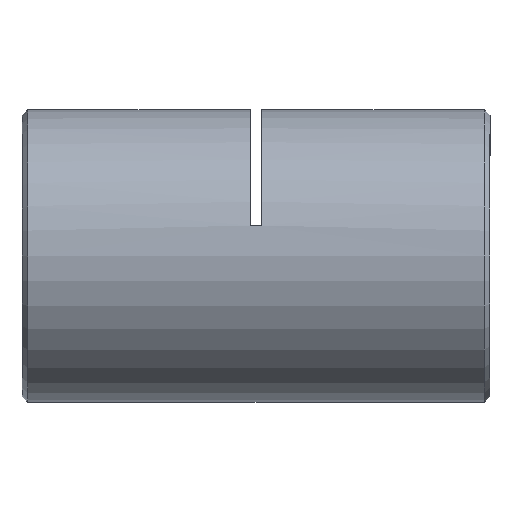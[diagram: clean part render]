
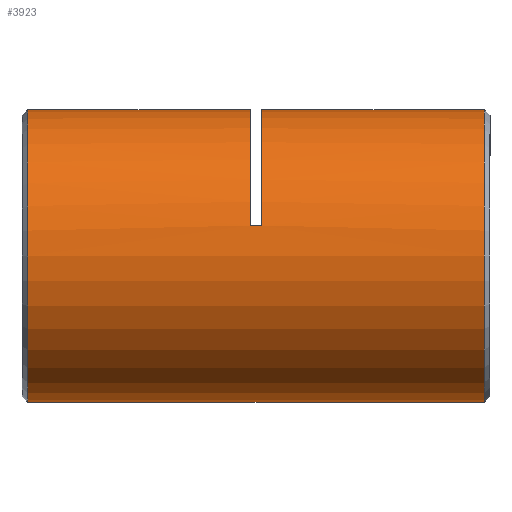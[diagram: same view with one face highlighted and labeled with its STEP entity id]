
A CAD part, left-side view. The second image highlights one B-rep face of the part: STEP entity #3923.
In plain terms, the highlighted cylindrical face has radius 12.5 mm (diameter 25 mm), a partial arc.
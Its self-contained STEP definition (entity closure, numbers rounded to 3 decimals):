
#27 = CARTESIAN_POINT ( 'NONE',  ( 0., 19.75, 12.5 ) ) ;
#63 = VERTEX_POINT ( 'NONE', #2268 ) ;
#151 = CARTESIAN_POINT ( 'NONE',  ( 0., 19.75, 0. ) ) ;
#171 = DIRECTION ( 'NONE',  ( 0., 0., -1. ) ) ;
#217 = VECTOR ( 'NONE', #1412, 1000. ) ;
#222 = EDGE_CURVE ( 'NONE', #5578, #63, #3032, .T. ) ;
#407 = VERTEX_POINT ( 'NONE', #3319 ) ;
#469 = CIRCLE ( 'NONE', #3794, 12.5 ) ;
#471 = EDGE_CURVE ( 'NONE', #407, #5578, #5819, .T. ) ;
#499 = DIRECTION ( 'NONE',  ( 0., -1., 0. ) ) ;
#502 = DIRECTION ( 'NONE',  ( 0., 0., 1. ) ) ;
#589 = VECTOR ( 'NONE', #5097, 1000. ) ;
#690 = DIRECTION ( 'NONE',  ( 0., -1., 0. ) ) ;
#722 = CARTESIAN_POINT ( 'NONE',  ( 0., 0.75, -12.5 ) ) ;
#738 = DIRECTION ( 'NONE',  ( 0., 0., 1. ) ) ;
#834 = VECTOR ( 'NONE', #1685, 1000. ) ;
#853 = ORIENTED_EDGE ( 'NONE', *, *, #3178, .T. ) ;
#914 = CARTESIAN_POINT ( 'NONE',  ( 0., 39.75, 12.5 ) ) ;
#1126 = CARTESIAN_POINT ( 'NONE',  ( 0., 20.75, 12.5 ) ) ;
#1157 = CARTESIAN_POINT ( 'NONE',  ( 0., 20.75, 0. ) ) ;
#1289 = ORIENTED_EDGE ( 'NONE', *, *, #3053, .T. ) ;
#1322 = EDGE_CURVE ( 'NONE', #4316, #2291, #5585, .T. ) ;
#1398 = AXIS2_PLACEMENT_3D ( 'NONE', #3522, #3066, #5357 ) ;
#1412 = DIRECTION ( 'NONE',  ( 0., -1., 0. ) ) ;
#1649 = LINE ( 'NONE', #3904, #834 ) ;
#1685 = DIRECTION ( 'NONE',  ( 0., 1., 0. ) ) ;
#1695 = CYLINDRICAL_SURFACE ( 'NONE', #1398, 12.5 ) ;
#1753 = ORIENTED_EDGE ( 'NONE', *, *, #1322, .T. ) ;
#1839 = DIRECTION ( 'NONE',  ( 0., 1., 0. ) ) ;
#1876 = EDGE_CURVE ( 'NONE', #3921, #4316, #4149, .T. ) ;
#2085 = CARTESIAN_POINT ( 'NONE',  ( 0., 40.5, 12.5 ) ) ;
#2109 = VECTOR ( 'NONE', #690, 1000. ) ;
#2268 = CARTESIAN_POINT ( 'NONE',  ( 0., 0.75, 12.5 ) ) ;
#2283 = CARTESIAN_POINT ( 'NONE',  ( 0., 0.75, 0. ) ) ;
#2291 = VERTEX_POINT ( 'NONE', #722 ) ;
#2356 = VERTEX_POINT ( 'NONE', #1126 ) ;
#2400 = CARTESIAN_POINT ( 'NONE',  ( 0., 39.75, 0. ) ) ;
#2838 = LINE ( 'NONE', #4210, #589 ) ;
#2875 = CARTESIAN_POINT ( 'NONE',  ( 0., 40.5, -12.5 ) ) ;
#2950 = VERTEX_POINT ( 'NONE', #4285 ) ;
#2975 = DIRECTION ( 'NONE',  ( 0., 1., 0. ) ) ;
#3008 = ORIENTED_EDGE ( 'NONE', *, *, #5451, .T. ) ;
#3032 = LINE ( 'NONE', #2085, #2109 ) ;
#3053 = EDGE_CURVE ( 'NONE', #407, #2950, #1649, .T. ) ;
#3066 = DIRECTION ( 'NONE',  ( 0., -1., 0. ) ) ;
#3178 = EDGE_CURVE ( 'NONE', #2291, #63, #469, .T. ) ;
#3298 = AXIS2_PLACEMENT_3D ( 'NONE', #2400, #499, #171 ) ;
#3319 = CARTESIAN_POINT ( 'NONE',  ( -12.226, 19.75, 2.604 ) ) ;
#3522 = CARTESIAN_POINT ( 'NONE',  ( 0., 40.5, 0. ) ) ;
#3557 = FACE_OUTER_BOUND ( 'NONE', #4008, .T. ) ;
#3794 = AXIS2_PLACEMENT_3D ( 'NONE', #2283, #1839, #502 ) ;
#3904 = CARTESIAN_POINT ( 'NONE',  ( -12.226, 20.25, 2.604 ) ) ;
#3921 = VERTEX_POINT ( 'NONE', #914 ) ;
#3923 = ADVANCED_FACE ( 'NONE', ( #3557 ), #1695, .T. ) ;
#4008 = EDGE_LOOP ( 'NONE', ( #4471, #5410, #1753, #853, #5470, #4756, #1289, #3008 ) ) ;
#4149 = CIRCLE ( 'NONE', #3298, 12.5 ) ;
#4210 = CARTESIAN_POINT ( 'NONE',  ( 0., 40.5, 12.5 ) ) ;
#4285 = CARTESIAN_POINT ( 'NONE',  ( -12.226, 20.75, 2.604 ) ) ;
#4316 = VERTEX_POINT ( 'NONE', #5845 ) ;
#4471 = ORIENTED_EDGE ( 'NONE', *, *, #5619, .F. ) ;
#4645 = DIRECTION ( 'NONE',  ( 0., 1., 0. ) ) ;
#4700 = DIRECTION ( 'NONE',  ( 0., 0., 1. ) ) ;
#4756 = ORIENTED_EDGE ( 'NONE', *, *, #471, .F. ) ;
#5097 = DIRECTION ( 'NONE',  ( 0., -1., 0. ) ) ;
#5129 = CIRCLE ( 'NONE', #5596, 12.5 ) ;
#5347 = AXIS2_PLACEMENT_3D ( 'NONE', #151, #4645, #4700 ) ;
#5357 = DIRECTION ( 'NONE',  ( 0., 0., -1. ) ) ;
#5410 = ORIENTED_EDGE ( 'NONE', *, *, #1876, .T. ) ;
#5451 = EDGE_CURVE ( 'NONE', #2950, #2356, #5129, .T. ) ;
#5470 = ORIENTED_EDGE ( 'NONE', *, *, #222, .F. ) ;
#5578 = VERTEX_POINT ( 'NONE', #27 ) ;
#5585 = LINE ( 'NONE', #2875, #217 ) ;
#5596 = AXIS2_PLACEMENT_3D ( 'NONE', #1157, #2975, #738 ) ;
#5619 = EDGE_CURVE ( 'NONE', #3921, #2356, #2838, .T. ) ;
#5819 = CIRCLE ( 'NONE', #5347, 12.5 ) ;
#5845 = CARTESIAN_POINT ( 'NONE',  ( 0., 39.75, -12.5 ) ) ;
